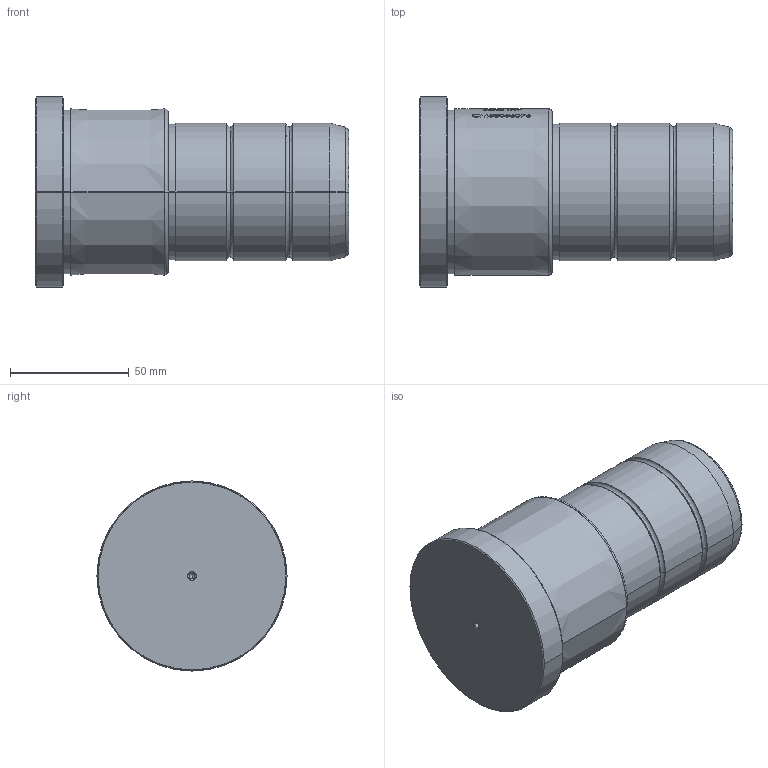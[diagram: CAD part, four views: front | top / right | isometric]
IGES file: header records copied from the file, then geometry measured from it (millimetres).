
Start section: SolidWorks IGES file using analytic representation for surfaces
Global section: file name: D:\TRIVECTOR\2026\08_Agosto\CM - COLUNA PRINCIPAL E31 (CATÁLOGO)\CM58056076.IGS; native system: SolidWorks 2024; preprocessor: SolidWorks 2024; author: Usuario; date: 260902.080525; units: millimetre
Bounding box: 132 x 80 x 80 mm (x, y, z)
Surface area: 36954.4 mm2 (no closed solid volume)
Topology: 0 solids, 0 shells, 479 faces, 6051 edges, 6047 vertices
Faces by surface type: bspline 396, revolution 83
